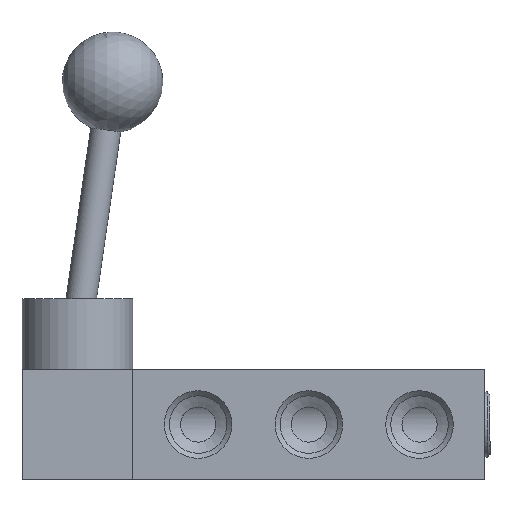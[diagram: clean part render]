
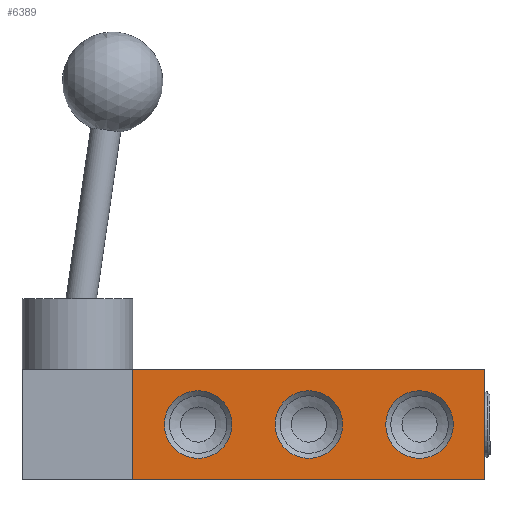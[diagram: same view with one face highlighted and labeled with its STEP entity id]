
A CAD part, front view. The second image highlights one B-rep face of the part: STEP entity #6389.
In plain terms, the highlighted planar face has unit normal (0, -1, 0).
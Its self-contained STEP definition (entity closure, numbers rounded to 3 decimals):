
#416=LINE('',#11715,#1031);
#420=LINE('',#11726,#1035);
#424=LINE('',#11741,#1039);
#425=LINE('',#11742,#1040);
#1031=VECTOR('',#10238,1000.);
#1035=VECTOR('',#10246,1000.);
#1039=VECTOR('',#10258,1000.);
#1040=VECTOR('',#10259,1000.);
#2018=ORIENTED_EDGE('',*,*,#3597,.T.);
#2019=ORIENTED_EDGE('',*,*,#3598,.T.);
#2020=ORIENTED_EDGE('',*,*,#3599,.T.);
#2021=ORIENTED_EDGE('',*,*,#3588,.F.);
#2022=ORIENTED_EDGE('',*,*,#3600,.F.);
#2023=ORIENTED_EDGE('',*,*,#3593,.F.);
#2024=ORIENTED_EDGE('',*,*,#3601,.F.);
#3588=EDGE_CURVE('',#4433,#4434,#416,.T.);
#3593=EDGE_CURVE('',#4438,#4439,#420,.T.);
#3597=EDGE_CURVE('',#4442,#4442,#4956,.T.);
#3598=EDGE_CURVE('',#4443,#4443,#4957,.T.);
#3599=EDGE_CURVE('',#4444,#4444,#4958,.T.);
#3600=EDGE_CURVE('',#4439,#4433,#424,.T.);
#3601=EDGE_CURVE('',#4434,#4438,#425,.T.);
#4433=VERTEX_POINT('',#11716);
#4434=VERTEX_POINT('',#11717);
#4438=VERTEX_POINT('',#11727);
#4439=VERTEX_POINT('',#11728);
#4442=VERTEX_POINT('',#11736);
#4443=VERTEX_POINT('',#11738);
#4444=VERTEX_POINT('',#11740);
#4956=CIRCLE('',#9462,6.723);
#4957=CIRCLE('',#9463,6.723);
#4958=CIRCLE('',#9464,6.723);
#5189=EDGE_LOOP('',(#2018));
#5190=EDGE_LOOP('',(#2019));
#5191=EDGE_LOOP('',(#2020));
#5192=EDGE_LOOP('',(#2021,#2022,#2023,#2024));
#5711=FACE_BOUND('',#5189,.T.);
#5712=FACE_BOUND('',#5190,.T.);
#5713=FACE_BOUND('',#5191,.T.);
#5714=FACE_BOUND('',#5192,.T.);
#6123=PLANE('',#9461);
#6389=ADVANCED_FACE('',(#5711,#5712,#5713,#5714),#6123,.F.);
#9461=AXIS2_PLACEMENT_3D('',#11734,#10250,#10251);
#9462=AXIS2_PLACEMENT_3D('',#11735,#10252,#10253);
#9463=AXIS2_PLACEMENT_3D('',#11737,#10254,#10255);
#9464=AXIS2_PLACEMENT_3D('',#11739,#10256,#10257);
#10238=DIRECTION('',(0.,0.,1.));
#10246=DIRECTION('',(0.,0.,-1.));
#10250=DIRECTION('',(0.,1.,0.));
#10251=DIRECTION('',(1.,0.,0.));
#10252=DIRECTION('',(0.,1.,0.));
#10253=DIRECTION('',(0.,0.,1.));
#10254=DIRECTION('',(0.,1.,0.));
#10255=DIRECTION('',(0.,0.,1.));
#10256=DIRECTION('',(0.,1.,0.));
#10257=DIRECTION('',(0.,0.,1.));
#10258=DIRECTION('',(-1.,0.,0.));
#10259=DIRECTION('',(1.,0.,0.));
#11715=CARTESIAN_POINT('',(-70.,-20.,-11.));
#11716=CARTESIAN_POINT('',(-70.,-20.,-11.));
#11717=CARTESIAN_POINT('',(-70.,-20.,11.));
#11726=CARTESIAN_POINT('',(0.,-20.,11.));
#11727=CARTESIAN_POINT('',(0.,-20.,11.));
#11728=CARTESIAN_POINT('',(0.,-20.,-11.));
#11734=CARTESIAN_POINT('',(-70.,-20.,11.));
#11735=CARTESIAN_POINT('',(-13.,-20.,0.));
#11736=CARTESIAN_POINT('',(-13.,-20.,6.723));
#11737=CARTESIAN_POINT('',(-35.,-20.,0.));
#11738=CARTESIAN_POINT('',(-35.,-20.,6.723));
#11739=CARTESIAN_POINT('',(-57.,-20.,0.));
#11740=CARTESIAN_POINT('',(-57.,-20.,6.723));
#11741=CARTESIAN_POINT('',(0.,-20.,-11.));
#11742=CARTESIAN_POINT('',(-70.,-20.,11.));
